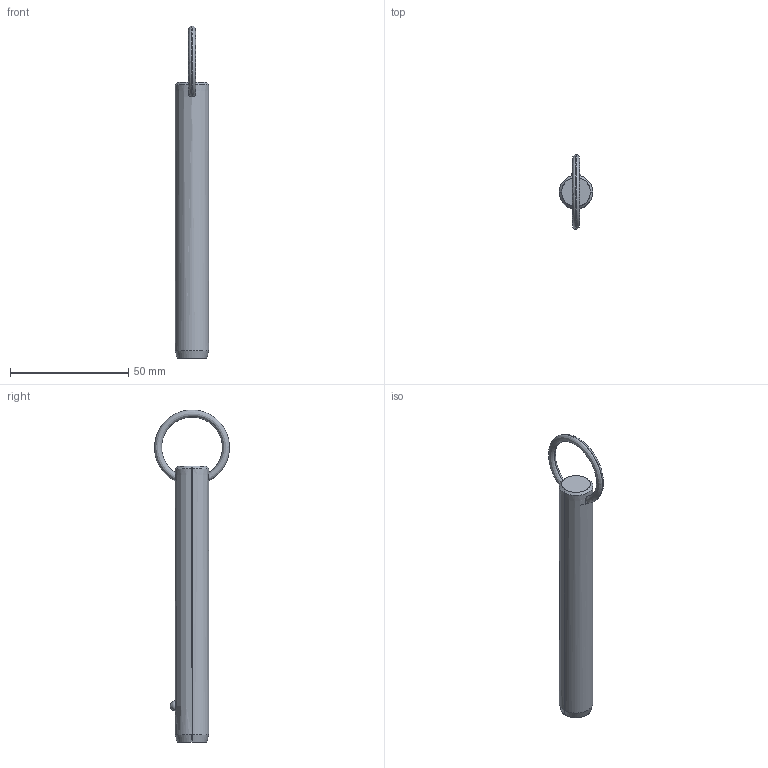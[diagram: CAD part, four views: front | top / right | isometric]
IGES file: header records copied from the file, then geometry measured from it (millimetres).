
Start section: SolidWorks IGES file using analytic representation for surfaces
Global section: file name: C:\Users\liam_\OneDrive\Documents\WORK\Work for WixRoyd\Job Files\J-00019 - Matt Davis CAD Checking\04. CAD Drawings\automotion20190605\P1250.2_v2\P1250.2_v2_20190729_IGES\P1250.056-360.igs; native system: SolidWorks 2017; preprocessor: SolidWorks 2017; author: liam_; date: 190729.232110; units: millimetre
Bounding box: 14.2 x 31.68 x 140.5 mm (x, y, z)
Surface area: 6171.9 mm2 (no closed solid volume)
Topology: 0 solids, 0 shells, 12 faces, 285 edges, 283 vertices
Faces by surface type: revolution 8, bspline 4
